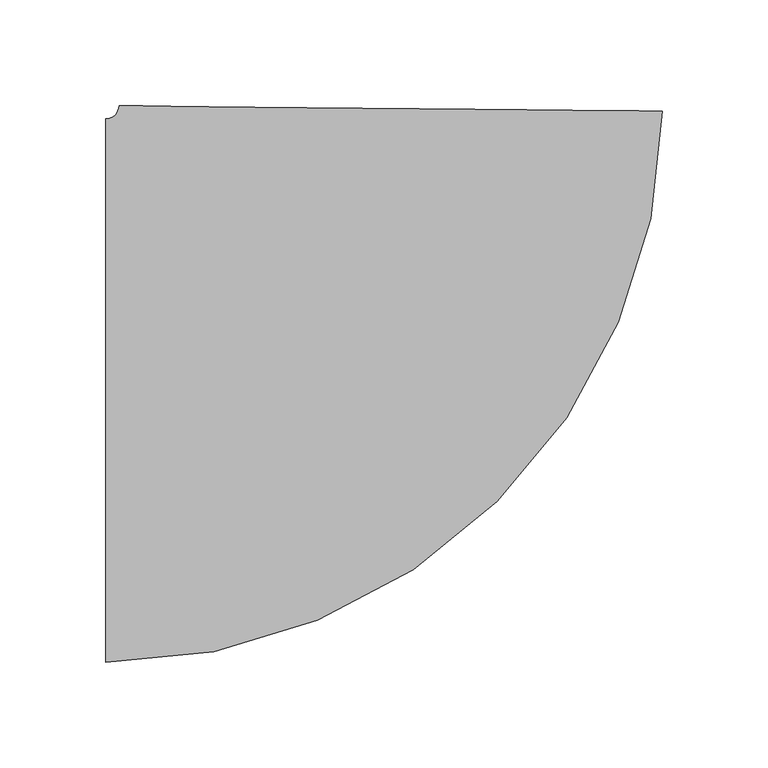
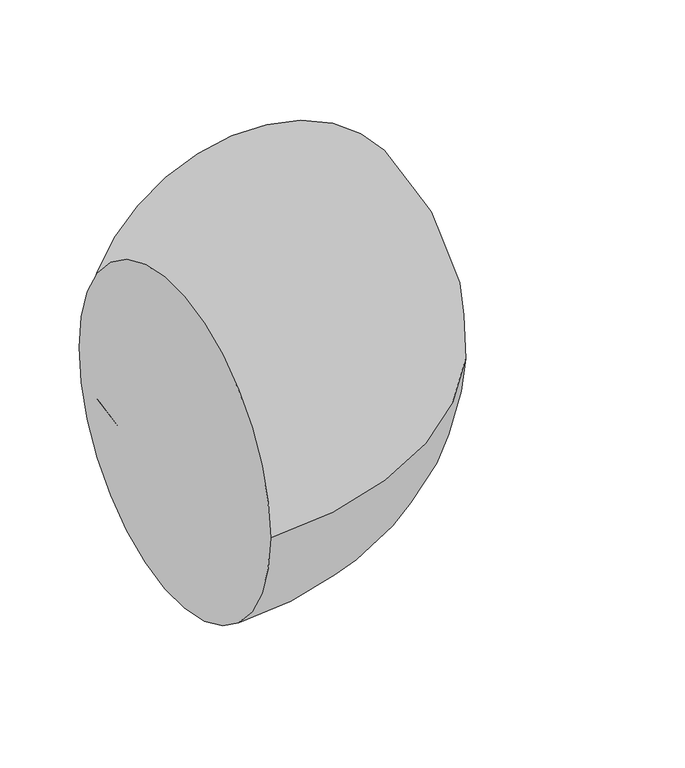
"""IFC4 building model written with IfcOpenShell, lengths in millimetres: pipe fitting geometry, M_Codo - Genérico : Estándar."""

from ifc_helpers import new_model, si_unit, point, frame, origin, place, context, project, spatial, circle_curve, ellipse_curve, trimmed, source, transform, mapped, element, save
from ifc_brep_helpers import plane_surface, revolved_surface, advanced_brep


def pipe_fitting_84574e39(model_context):
    return source(origin(), model_context, "Body", "AdvancedBrep", [
        advanced_brep(
        [(-133.5948461, -128.5875, 0.0), (-133.5948461, 128.5875, 0.0), (129.9169781, 132.3023312, 0.0), (-127.2451636, 134.874002, 0.0)],
        [
            (0, 1, circle_curve(frame((-133.5948461, 0.0, 0.0), z_axis=(-1.0, 0.0, 0.0), x_axis=(0.0, 1.0, 0.0)), 128.5875)),
            (1, 0, circle_curve(frame((-133.5948461, 0.0, 0.0), z_axis=(-1.0, 0.0, 0.0), x_axis=(0.0, 1.0, 0.0)), 128.5875)),
            (2, 3, circle_curve(frame((1.3359073, 133.5881666, 0.0), z_axis=(0.009999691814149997, 0.9999500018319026, 0.0), x_axis=(-0.9999500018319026, 0.009999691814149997, 0.0)), 128.5875)),
            (3, 2, circle_curve(frame((1.3359073, 133.5881666, 0.0), z_axis=(0.009999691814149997, 0.9999500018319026, 0.0), x_axis=(-0.9999500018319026, 0.009999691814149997, 0.0)), 128.5875)),
            (3, 1, circle_curve(frame((-133.5948461, 134.9375, 0.0), z_axis=(0.0, 0.0, -1.0), x_axis=(0.0, -1.0, 0.0)), 6.35)),
            (0, 2, circle_curve(frame((-133.5948461, 134.9375, 0.0), z_axis=(0.0, 0.0, 1.0), x_axis=(0.0, -1.0, 0.0)), 263.525)),
        ],
        [
            plane_surface(frame((-133.5948461, 0.0, 0.0), z_axis=(-1.0, 0.0, 0.0), x_axis=(0.0, 0.0, 1.0))),
            plane_surface(frame((1.3359073, 133.5881666, 0.0), z_axis=(0.009999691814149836, 0.9999500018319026, 0.0), x_axis=(0.0, 0.0, 1.0))),
            revolved_surface(trimmed(ellipse_curve(frame((-133.5948461, 0.0, 0.0), z_axis=(-1.0, 0.0, 0.0), x_axis=(0.0, 1.0, 0.0)), 128.5875, 128.5875), [point((-133.5948461, -128.5875, 0.0))], [point((-133.5948461, 128.5875, 0.0))], True, "CARTESIAN"), (-133.5948461, 134.9375, 0.0), (0.0, 0.0, 1.0)),
            revolved_surface(trimmed(ellipse_curve(frame((-133.5948461, 0.0, 0.0), z_axis=(-1.0, 0.0, 0.0), x_axis=(0.0, 1.0, 0.0)), 128.5875, 128.5875), [point((-133.5948461, 128.5875, 0.0))], [point((-133.5948461, -128.5875, 0.0))], True, "CARTESIAN"), (-133.5948461, 134.9375, 0.0), (0.0, 0.0, 1.0)),
        ],
        [
            (0, [[1, 2]]),
            (1, [[3, 4]]),
            (2, [[5, -1, 6, -4]]),
            (3, [[-6, -2, -5, -3]]),
        ],
    ),
    ])


if __name__ == "__main__":
    model = new_model("IFC4")
    model_context = context("Model", 3, world=origin())
    ifc_project = project(units=[si_unit("LENGTHUNIT", "METRE", prefix="MILLI")], contexts=[model_context])
    site = spatial("IfcSite", under=ifc_project)
    building = spatial("IfcBuilding", under=site)
    placement = place(None, origin())
    pipe_fitting_shape = pipe_fitting_84574e39(model_context)
    element("IfcPipeFitting", 1, ObjectType="M_Codo - Genérico : Estándar", at=placement, inside=building, context=model_context, shape_type="MappedRepresentation", body=[
        mapped(pipe_fitting_shape, transform((0.0, 0.0, 0.0), x_axis=(1.0, 0.0, 0.0), y_axis=(0.0, 1.0, 0.0), z_axis=(0.0, 0.0, 1.0))),
    ])
    save(model, "model.ifc")
